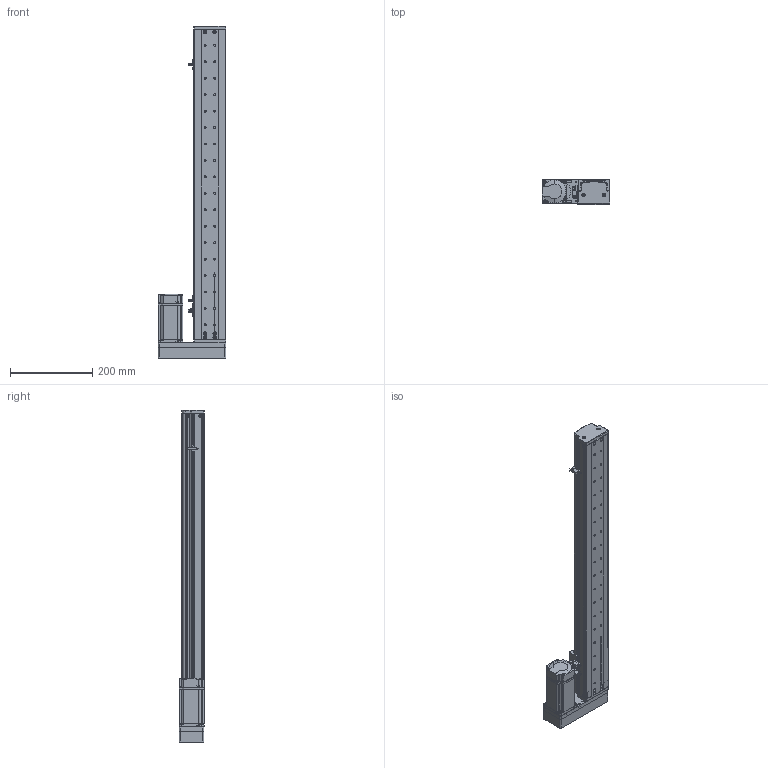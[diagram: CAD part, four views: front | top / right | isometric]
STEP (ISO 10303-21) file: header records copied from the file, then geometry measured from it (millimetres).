
FILE_DESCRIPTION (( 'STEP AP214' ), '1' );
FILE_NAME ('KSD75S-S600-MR-CM.STEP', '2019-10-18T07:22:43', ( '微软用户' ), ( '微软中国' ), 'SwSTEP 2.0', 'SolidWorks 2014', '' );
FILE_SCHEMA (( 'AUTOMOTIVE_DESIGN' ));
Length unit declared in the file: millimetre
Products named in the file (13): 75遵耀郪耜啣-600俴最; 75遵賑雄釱; MGW15H賑寢600俴最 ; 600俴最; KSD75S-S600-MR-CM; MHMD042G1CA_2_03; 75宽模组保护罩左右折; 75宽马达安装板连板左右折丝杆; 覜茼え100遵圉猾敕; U倰嫖萇EEㄜSX672; 綴傷啣 ; ヶ傷啣; 75裔啣-600俴最
Assembly tree (15 placements, depth 3):
  KSD75S-S600-MR-CM
    MGW15H賑寢600俴最 
      600俴最
    75遵賑雄釱
    75遵耀郪耜啣-600俴最  x2
    75裔啣-600俴最
    ヶ傷啣
    綴傷啣 
    U倰嫖萇EEㄜSX672  x3
    覜茼え100遵圉猾敕
    75宽马达安装板连板左右折丝杆
    75宽模组保护罩左右折
    MHMD042G1CA_2_03
Bounding box: 165 x 63 x 807.5 mm (x, y, z)
Volume: 1021333.9 mm3; surface area: 643576.8 mm2
Topology: 13 solids, 14 shells, 1513 faces, 4258 edges, 2781 vertices
Faces by surface type: cylinder 731, plane 635, cone 129, bspline 18
Entity records: 48458 total; most frequent: CARTESIAN_POINT 9168, DIRECTION 7304, ORIENTED_EDGE 6796, EDGE_CURVE 3469, AXIS2_PLACEMENT_3D 2696, VERTEX_POINT 2299, VECTOR 1912, LINE 1912
